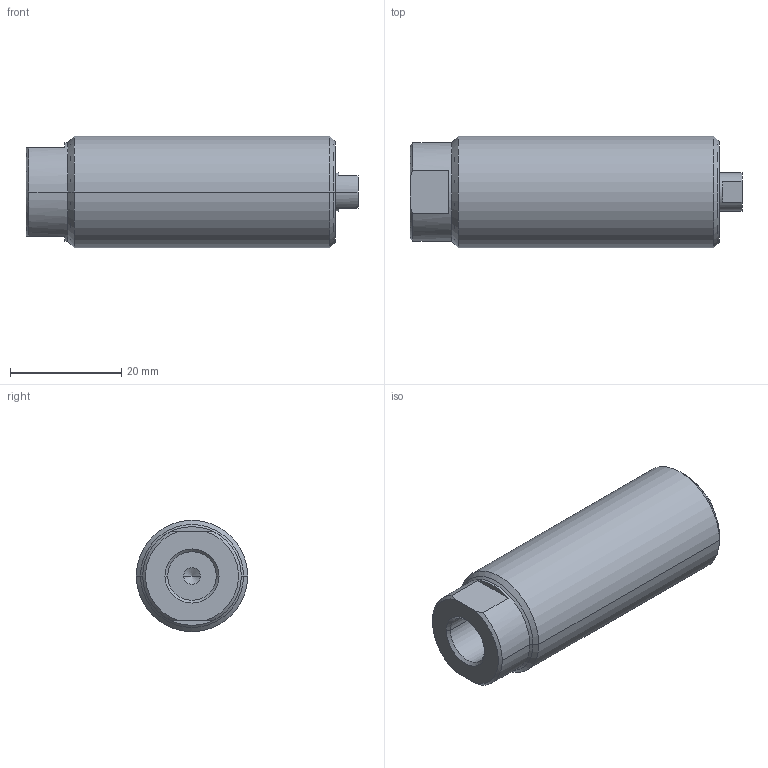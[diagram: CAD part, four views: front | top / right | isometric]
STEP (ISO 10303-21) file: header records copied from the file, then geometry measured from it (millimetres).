
FILE_DESCRIPTION((''),'2;1');
FILE_NAME('CST-5132_ASM','2010-11-22T',('chad.steele'),(''),'PRO/ENGINEER BY PARAMETRIC TECHNOLOGY CORPORATION, 2010040','PRO/ENGINEER BY PARAMETRIC TECHNOLOGY CORPORATION, 2010040','');
FILE_SCHEMA(('CONFIG_CONTROL_DESIGN'));
Length unit declared in the file: millimetre
Products named in the file (4): DC6046030; DC6036044; PA2121040; CST-5132_ASM
Assembly tree (3 placements, depth 2):
  CST-5132_ASM
    DC6046030
    DC6036044
    PA2121040
Bounding box: 59.6 x 20 x 20 mm (x, y, z)
Volume: 13225 mm3; surface area: 12655.6 mm2
Topology: 3 solids, 8 shells, 106 faces, 248 edges, 152 vertices
Faces by surface type: cylinder 40, plane 28, cone 28, torus 10
Entity records: 3256 total; most frequent: CARTESIAN_POINT 633, DIRECTION 602, ORIENTED_EDGE 468, AXIS2_PLACEMENT_3D 253, EDGE_CURVE 244, VERTEX_POINT 152, CIRCLE 134, EDGE_LOOP 118
